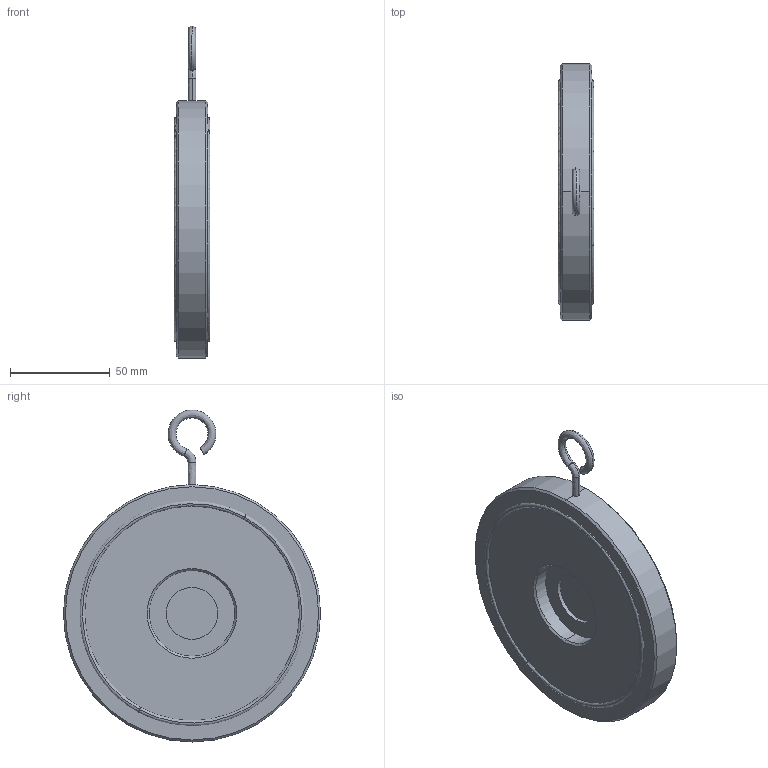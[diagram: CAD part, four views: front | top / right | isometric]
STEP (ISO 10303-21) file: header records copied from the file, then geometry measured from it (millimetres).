
FILE_DESCRIPTION (( 'STEP AP203' ), '1' );
FILE_NAME ('0.STEP', '2017-04-04T01:05:22', ( 'User' ), ( 'shendu' ), 'SwSTEP 2.0', 'SolidWorks 2015', '' );
FILE_SCHEMA (( 'CONFIG_CONTROL_DESIGN' ));
Length unit declared in the file: millimetre
Products named in the file (1): 0
Bounding box: 18 x 129 x 166.5 mm (x, y, z)
Volume: 185459 mm3; surface area: 56368.8 mm2
Topology: 10 solids, 10 shells, 179 faces, 423 edges, 266 vertices
Faces by surface type: plane 72, bspline 37, cylinder 36, cone 34
Entity records: 9563 total; most frequent: CARTESIAN_POINT 5499, ORIENTED_EDGE 836, DIRECTION 811, EDGE_CURVE 418, AXIS2_PLACEMENT_3D 308, VERTEX_POINT 266, EDGE_LOOP 198, LINE 195
